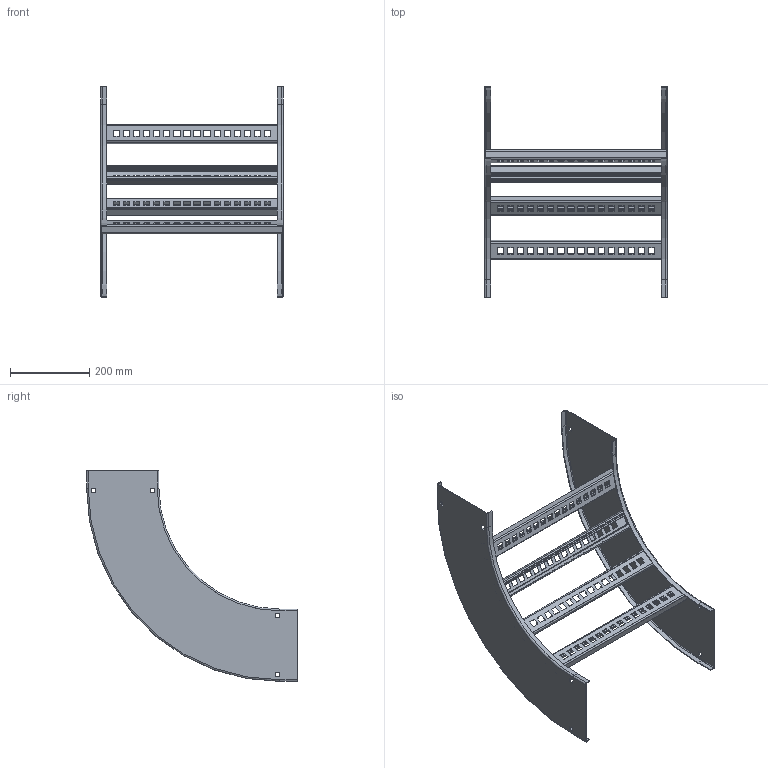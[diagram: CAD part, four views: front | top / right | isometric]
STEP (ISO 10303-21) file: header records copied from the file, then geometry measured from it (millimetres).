
FILE_DESCRIPTION((''),'2;1');
FILE_NAME('AUF718VVO9012_ASM','2010-02-01T',('erouzier'),(''),'PRO/ENGINEER BY PARAMETRIC TECHNOLOGY CORPORATION, 2008510','PRO/ENGINEER BY PARAMETRIC TECHNOLOGY CORPORATION, 2008510','');
FILE_SCHEMA(('CONFIG_CONTROL_DESIGN'));
Length unit declared in the file: inch
Products named in the file (3): CDS001419_7_90_12; CDS002159L18-P; AUF718VVO9012_ASM
Assembly tree (6 placements, depth 2):
  AUF718VVO9012_ASM
    CDS001419_7_90_12  x2
    CDS002159L18-P  x4
Bounding box: 461.31 x 531.67 x 531.67 mm (x, y, z)
Volume: 840878 mm3; surface area: 1001451.7 mm2
Topology: 6 solids, 6 shells, 748 faces, 2144 edges, 1408 vertices
Faces by surface type: plane 416, cylinder 324, torus 8
Entity records: 7136 total; most frequent: DIRECTION 1232, CARTESIAN_POINT 1221, ORIENTED_EDGE 1208, EDGE_CURVE 604, VECTOR 426, LINE 426, AXIS2_PLACEMENT_3D 403, VERTEX_POINT 392
